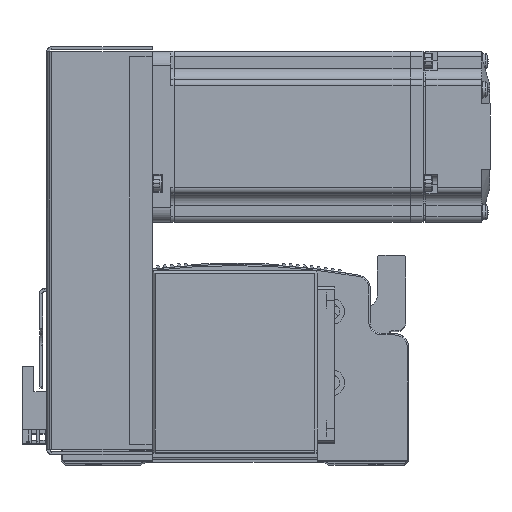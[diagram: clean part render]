
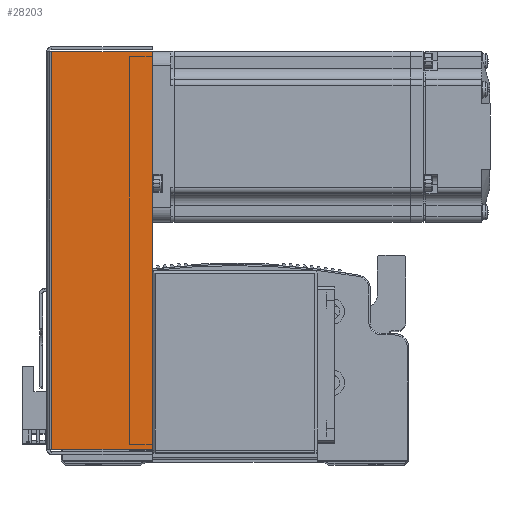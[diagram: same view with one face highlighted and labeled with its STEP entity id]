
A CAD part, top view. The second image highlights one B-rep face of the part: STEP entity #28203.
In plain terms, the highlighted planar face has unit normal (0, 0, 1) as drawn and (0, 0, -1) by its records, which use the part's own axes.
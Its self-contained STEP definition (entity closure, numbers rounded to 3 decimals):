
#1995 = CARTESIAN_POINT ( 'NONE',  ( 0., 36., -33.5 ) ) ;
#2019 = DIRECTION ( 'NONE',  ( 1., 0., 0. ) ) ;
#2187 = CARTESIAN_POINT ( 'NONE',  ( -69.793, 0., -33.5 ) ) ;
#2273 = DIRECTION ( 'NONE',  ( 0., 1., 0. ) ) ;
#2322 = CARTESIAN_POINT ( 'NONE',  ( 71.5, 0.737, -33.5 ) ) ;
#2335 = DIRECTION ( 'NONE',  ( 1., 0., 0. ) ) ;
#2677 = DIRECTION ( 'NONE',  ( 0., 1., 0. ) ) ;
#2742 = CARTESIAN_POINT ( 'NONE',  ( 69.793, 0., -33.5 ) ) ;
#4071 = VECTOR ( 'NONE', #2019, 1000. ) ;
#4177 = LINE ( 'NONE', #1995, #4071 ) ;
#4185 = VECTOR ( 'NONE', #2273, 1000. ) ;
#4239 = LINE ( 'NONE', #2187, #4185 ) ;
#4364 = VECTOR ( 'NONE', #2677, 1000. ) ;
#4370 = VECTOR ( 'NONE', #2335, 1000. ) ;
#4374 = LINE ( 'NONE', #2322, #4370 ) ;
#4431 = LINE ( 'NONE', #2742, #4364 ) ;
#11509 = EDGE_CURVE ( 'NONE', #27050, #27071, #4177, .T. ) ;
#11554 = EDGE_CURVE ( 'NONE', #27052, #27050, #4239, .T. ) ;
#11597 = EDGE_CURVE ( 'NONE', #27052, #27051, #4374, .T. ) ;
#11648 = EDGE_CURVE ( 'NONE', #27051, #27071, #4431, .T. ) ;
#22556 = EDGE_LOOP ( 'NONE', ( #24681, #24683, #24698, #24763 ) ) ;
#24681 = ORIENTED_EDGE ( 'NONE', *, *, #11597, .F. ) ;
#24683 = ORIENTED_EDGE ( 'NONE', *, *, #11554, .T. ) ;
#24698 = ORIENTED_EDGE ( 'NONE', *, *, #11509, .T. ) ;
#24763 = ORIENTED_EDGE ( 'NONE', *, *, #11648, .F. ) ;
#27050 = VERTEX_POINT ( 'NONE', #80629 ) ;
#27051 = VERTEX_POINT ( 'NONE', #80630 ) ;
#27052 = VERTEX_POINT ( 'NONE', #80707 ) ;
#27071 = VERTEX_POINT ( 'NONE', #80731 ) ;
#28203 = ADVANCED_FACE ( 'NONE', ( #62592 ), #68378, .F. ) ;
#33272 = AXIS2_PLACEMENT_3D ( 'NONE', #68398, #68372, #68399 ) ;
#62592 = FACE_OUTER_BOUND ( 'NONE', #22556, .T. ) ;
#68372 = DIRECTION ( 'NONE',  ( 0., 0., 1. ) ) ;
#68378 = PLANE ( 'NONE',  #33272 ) ;
#68398 = CARTESIAN_POINT ( 'NONE',  ( 0., 0., -33.5 ) ) ;
#68399 = DIRECTION ( 'NONE',  ( 0., -1., 0. ) ) ;
#80629 = CARTESIAN_POINT ( 'NONE',  ( -69.793, 36., -33.5 ) ) ;
#80630 = CARTESIAN_POINT ( 'NONE',  ( 69.793, 0.737, -33.5 ) ) ;
#80707 = CARTESIAN_POINT ( 'NONE',  ( -69.793, 0.737, -33.5 ) ) ;
#80731 = CARTESIAN_POINT ( 'NONE',  ( 69.793, 36., -33.5 ) ) ;
